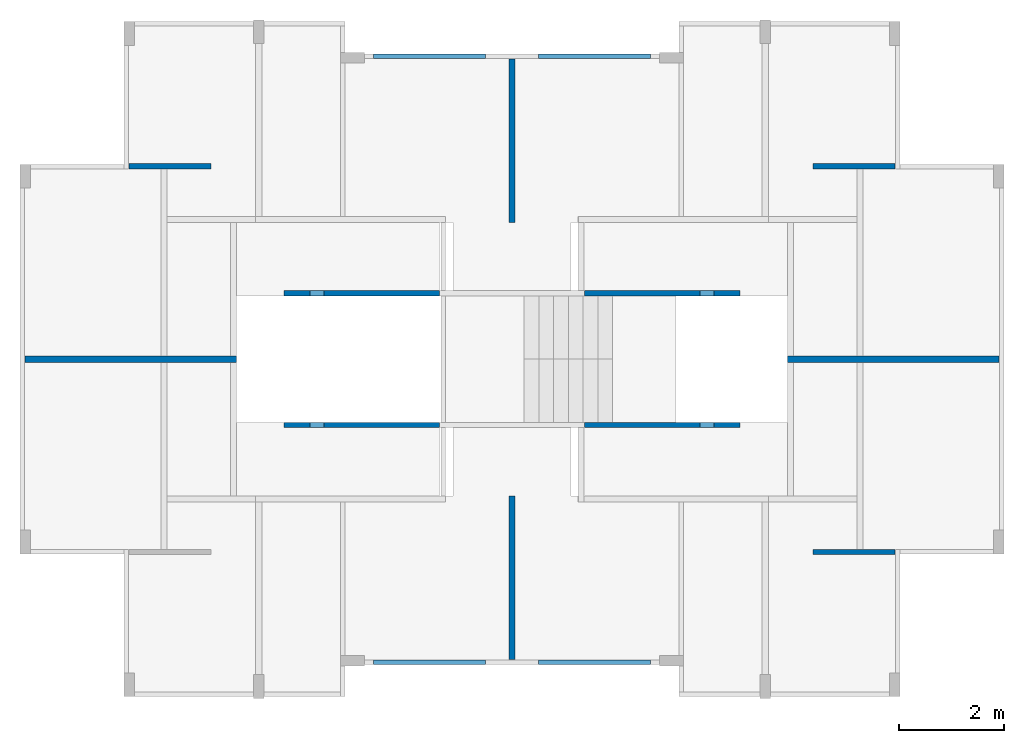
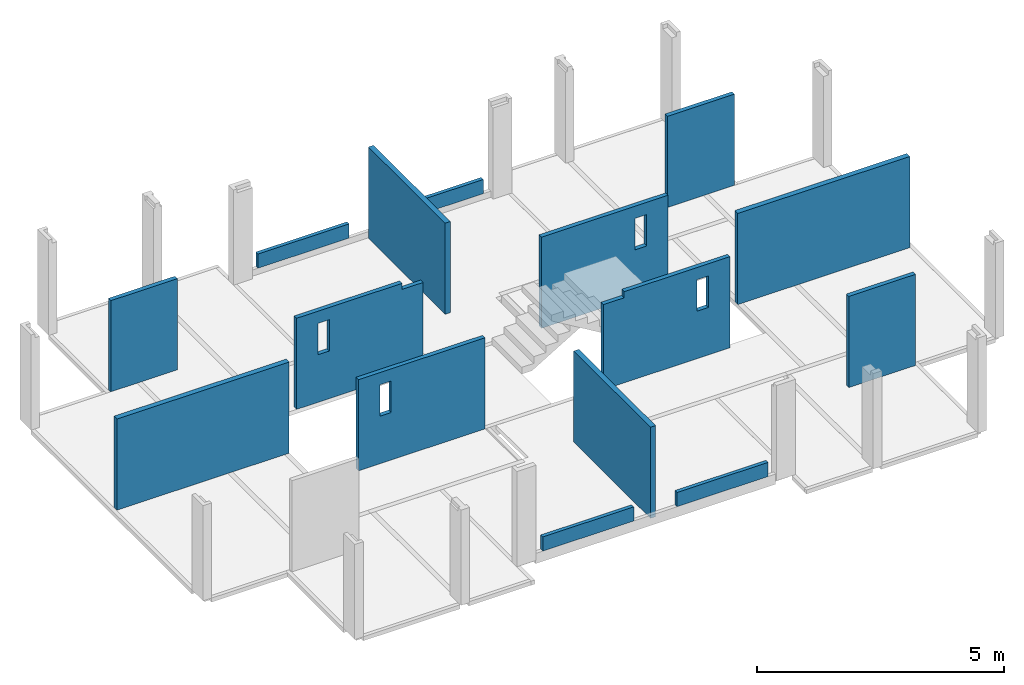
# One storey, part 4 of 6: 15 walls, 6 openings.
"""IFC4 building model written with IfcOpenShell, lengths in metres."""

import ifcopenshell
import ifcopenshell.guid

model = None  # the IFC model being written
_history = None  # IfcOwnerHistory: only IFC2X3 demands one
_inside = {}  # id of a spatial element -> (the spatial element, [elements in it])
_under = {}  # id of a project, library or spatial element -> (it, [spatial elements below it])
_declared = {}  # id of a project -> (the project, [libraries it declares])
_typed = {}  # id of a type object -> (the type object, [elements of that type])
_made_of = {}  # id of a material, layer set ... -> (it, [elements and type objects made of it])


def new_model(schema):
    """Start an empty IFC model of exactly this schema.

    Asked for "IFC4X3", IfcOpenShell would pick the latest addendum, in which some entities
    have other attributes; the version numbers below select the first issue.
    IFC2X3 requires an IfcOwnerHistory on every rooted entity: one is made here for all.
    """
    global model, _history
    if schema == "IFC4X3":
        model = ifcopenshell.file(schema_version=(4, 3, 0, 0))
    else:
        model = ifcopenshell.file(schema=schema)
    _inside.clear()
    _under.clear()
    _declared.clear()
    _typed.clear()
    _made_of.clear()
    _history = None
    if model.schema == "IFC2X3":
        org = make("IfcOrganization", Name="unknown")
        user = make(
            "IfcPersonAndOrganization",
            ThePerson=make("IfcPerson", FamilyName="unknown"),
            TheOrganization=org,
        )
        app = make(
            "IfcApplication",
            ApplicationDeveloper=org,
            Version="unknown",
            ApplicationFullName="unknown",
            ApplicationIdentifier="unknown",
        )
        _history = make(
            "IfcOwnerHistory",
            OwningUser=user,
            OwningApplication=app,
            ChangeAction="ADDED",
            CreationDate=0,
        )
    return model


def make(cls, **values):
    """One entity of the class cls with the attributes given. An attribute that is None is left unset."""
    return model.create_entity(
        cls, **{name: value for name, value in values.items() if value is not None}
    )


def entity(cls, *values):
    """Any entity or typed value of the class cls, its attributes in the order of the schema. None: left unset."""
    e = model.create_entity(cls)
    for i, value in enumerate(values):
        if value is not None:
            e[i] = value
    return e


def rooted(cls, **values):
    """An entity with a GlobalId (a new one), such as an element, a storey or a relation."""
    return make(cls, GlobalId=ifcopenshell.guid.new(), OwnerHistory=_history, **values)


def si_unit(unit_type, name, prefix=None):
    """IfcSIUnit, for example si_unit("LENGTHUNIT", "METRE", prefix="MILLI")."""
    return make("IfcSIUnit", UnitType=unit_type, Prefix=prefix, Name=name)


def converted_unit(unit_type, name, factor, base, dimensions=None, offset=None):
    """IfcConversionBasedUnit, such as the inch: factor (a typed value) times the base unit."""
    return make(
        "IfcConversionBasedUnit"
        if offset is None
        else "IfcConversionBasedUnitWithOffset",
        ConversionOffset=offset,
        Dimensions=None
        if dimensions is None
        else entity("IfcDimensionalExponents", *dimensions),
        UnitType=unit_type,
        Name=name,
        ConversionFactor=make(
            "IfcMeasureWithUnit", ValueComponent=factor, UnitComponent=base
        ),
    )


def derived_unit(unit_type, elements):
    """IfcDerivedUnit: a product of units, each with its exponent."""
    return make(
        "IfcDerivedUnit",
        Elements=[
            make("IfcDerivedUnitElement", Unit=unit, Exponent=power)
            for unit, power in elements
        ],
        UnitType=unit_type,
    )


def assignment(units):
    """IfcUnitAssignment: the units of a project."""
    return None if units is None else make("IfcUnitAssignment", Units=units)


def point(xyz):
    """IfcCartesianPoint."""
    return None if xyz is None else make("IfcCartesianPoint", Coordinates=xyz)


def direction(xyz):
    """IfcDirection."""
    return None if xyz is None else make("IfcDirection", DirectionRatios=xyz)


def frame(location, z_axis=None, x_axis=None):
    """IfcAxis2Placement3D, a coordinate frame: its origin and axes. An axis left out is left unset."""
    return make(
        "IfcAxis2Placement3D",
        Location=point(location),
        Axis=direction(z_axis),
        RefDirection=direction(x_axis),
    )


def origin():
    """The frame at (0, 0, 0) with its axes left unset."""
    return frame((0.0, 0.0, 0.0))


def place(relative_to, where):
    """IfcLocalPlacement: puts the frame where relative to a parent placement (None: the world)."""
    return make(
        "IfcLocalPlacement", PlacementRelTo=relative_to, RelativePlacement=where
    )


def context(
    kind, dimensions, precision=None, world=None, true_north=None, identifier=None
):
    """IfcGeometricRepresentationContext, for example the 3D "Model" context."""
    return make(
        "IfcGeometricRepresentationContext",
        ContextIdentifier=identifier,
        ContextType=kind,
        CoordinateSpaceDimension=dimensions,
        Precision=precision,
        WorldCoordinateSystem=world,
        TrueNorth=true_north,
    )


def subcontext(parent, identifier, kind, view, scale=None):
    """IfcGeometricRepresentationSubContext, for example "Body" below "Model"."""
    return make(
        "IfcGeometricRepresentationSubContext",
        ContextIdentifier=identifier,
        ContextType=kind,
        ParentContext=parent,
        TargetScale=scale,
        TargetView=view,
    )


def project(units=None, contexts=None):
    """IfcProject with its units and contexts."""
    return rooted(
        "IfcProject",
        Name="project",
        RepresentationContexts=contexts,
        UnitsInContext=assignment(units),
    )


def spatial(cls, under=None, at=None, **own):
    """A site, building, storey or space (cls), placed at a placement, below another one or the project."""
    s = rooted(cls, ObjectPlacement=at, **own)
    if under is not None:
        _under.setdefault(under.id(), (under, []))[1].append(s)
    return s


def point_list(points):
    """IfcCartesianPointList2D or 3D."""
    cls = (
        "IfcCartesianPointList2D" if len(points[0]) == 2 else "IfcCartesianPointList3D"
    )
    return make(cls, CoordList=points)


def indexed_curve(points, segments=None, self_intersect=None):
    """IfcIndexedPolyCurve: lines and arcs through numbered points (the first is 1)."""
    return make(
        "IfcIndexedPolyCurve",
        Points=point_list(points),
        Segments=segments,
        SelfIntersect=self_intersect,
    )


def outline(outer, holes=None, kind="AREA"):
    """IfcArbitraryClosedProfileDef: a profile drawn as a closed curve; with holes, ...WithVoids."""
    if holes is None:
        return make("IfcArbitraryClosedProfileDef", ProfileType=kind, OuterCurve=outer)
    return make(
        "IfcArbitraryProfileDefWithVoids",
        ProfileType=kind,
        OuterCurve=outer,
        InnerCurves=holes,
    )


def extrude(swept, where, along, depth):
    """IfcExtrudedAreaSolid: the profile swept, set in the frame where, extruded along a direction by depth."""
    return make(
        "IfcExtrudedAreaSolid",
        SweptArea=swept,
        Position=where,
        ExtrudedDirection=direction(along),
        Depth=depth,
    )


def polygons(points, faces, closed=None, point_numbers=None):
    """IfcPolygonalFaceSet: a face is its outer loop, then its inner loops; points numbered from 1."""
    made = []
    for loops in faces:
        if len(loops) == 1:
            made.append(make("IfcIndexedPolygonalFace", CoordIndex=loops[0]))
        else:
            made.append(
                make(
                    "IfcIndexedPolygonalFaceWithVoids",
                    CoordIndex=loops[0],
                    InnerCoordIndices=loops[1:],
                )
            )
    return make(
        "IfcPolygonalFaceSet",
        Coordinates=point_list(points),
        Closed=closed,
        Faces=made,
        PnIndex=point_numbers,
    )


def shape(context_of_items, identifier, shape_type, items):
    """IfcShapeRepresentation: the items that make up one representation, for example the "Body"."""
    return make(
        "IfcShapeRepresentation",
        ContextOfItems=context_of_items,
        RepresentationIdentifier=identifier,
        RepresentationType=shape_type,
        Items=items,
    )


def material(Name=None, Category=None):
    """IfcMaterial."""
    return make("IfcMaterial", Name=Name, Category=Category)


def made_of(thing, what):
    """Note that an element or type object is made of a material, layer set ...; save() writes the relation."""
    if what is not None:
        _made_of.setdefault(what.id(), (what, []))[1].append(thing)
    return thing


def type_object(cls, material=None, **own):
    """A type object (cls), such as IfcWallType, which elements share."""
    return made_of(rooted(cls, **own), material)


def element(
    cls,
    number,
    at=None,
    inside=None,
    cuts=None,
    type_object=None,
    material=None,
    context=None,
    identifier="Body",
    shape_type=None,
    held_by="IfcProductDefinitionShape",
    body=None,
    shapes=None,
    **own,
):
    """One element of the class cls, such as IfcWall. Its Tag is "e" and its number.

    at: its placement. inside: the storey or other place that contains it. cuts: it is an
    opening in that element (IfcRelVoidsElement). A single representation is given by context,
    identifier, shape_type and body (its items); several are given by shapes. held_by: the class
    of the entity that holds the representations. save() writes the other relations.
    """
    e = rooted(cls, Tag="e%d" % number, ObjectPlacement=at, **own)
    if body is not None:
        shapes = [shape(context, identifier, shape_type, body)]
    if shapes is not None:
        e.Representation = make(held_by, Representations=shapes)
    if inside is not None:
        _inside.setdefault(inside.id(), (inside, []))[1].append(e)
    if cuts is not None:
        rooted(
            "IfcRelVoidsElement", RelatingBuildingElement=cuts, RelatedOpeningElement=e
        )
    if type_object is not None:
        _typed.setdefault(type_object.id(), (type_object, []))[1].append(e)
    return made_of(e, material)


def aggregate(whole, parts):
    """IfcRelAggregates: a whole, such as a stair, and the parts it consists of."""
    return rooted("IfcRelAggregates", RelatingObject=whole, RelatedObjects=parts)


def save(model, path):
    """Write the relations noted so far, then the file.

    IfcRelAggregates (storeys below a building ...), IfcRelContainedInSpatialStructure (elements
    in a storey), IfcRelDefinesByType, IfcRelAssociatesMaterial and IfcRelDeclares: one each for
    every whole, place, type object, material and project.
    """
    for whole, parts in _under.values():
        aggregate(whole, parts)
    for where, things in _inside.values():
        rooted(
            "IfcRelContainedInSpatialStructure",
            RelatedElements=things,
            RelatingStructure=where,
        )
    for kind, things in _typed.values():
        rooted("IfcRelDefinesByType", RelatedObjects=things, RelatingType=kind)
    for what, things in _made_of.values():
        rooted("IfcRelAssociatesMaterial", RelatedObjects=things, RelatingMaterial=what)
    for by, libraries in _declared.values():
        rooted("IfcRelDeclares", RelatingContext=by, RelatedDefinitions=libraries)
    model.write(path)


model = new_model("IFC4")

# Units and contexts
model_context = context("Model", 3, precision=1e-05, world=origin(), true_north=direction((6.123031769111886e-17, 1.0)))
body_context = subcontext(model_context, "Body", "Model", "MODEL_VIEW")
ifc_project = project(units=[si_unit("LENGTHUNIT", "METRE"), si_unit("AREAUNIT", "SQUARE_METRE"), si_unit("VOLUMEUNIT", "CUBIC_METRE"), converted_unit("PLANEANGLEUNIT", "DEGREE", entity("IfcRatioMeasure", 0.017453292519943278), si_unit("PLANEANGLEUNIT", "RADIAN"), dimensions=[0, 0, 0, 0, 0, 0, 0]), si_unit("MASSUNIT", "GRAM", prefix="KILO"), derived_unit("MASSDENSITYUNIT", [(si_unit("MASSUNIT", "GRAM", prefix="KILO"), 1), (si_unit("LENGTHUNIT", "METRE"), -3)]), derived_unit("IONCONCENTRATIONUNIT", [(si_unit("MASSUNIT", "GRAM", prefix="KILO"), 1), (si_unit("LENGTHUNIT", "METRE"), -3)]), derived_unit("MOMENTOFINERTIAUNIT", [(si_unit("LENGTHUNIT", "METRE"), 4)]), si_unit("TIMEUNIT", "SECOND"), si_unit("FREQUENCYUNIT", "HERTZ"), si_unit("THERMODYNAMICTEMPERATUREUNIT", "DEGREE_CELSIUS"), derived_unit("THERMALTRANSMITTANCEUNIT", [(si_unit("MASSUNIT", "GRAM", prefix="KILO"), 1), (si_unit("THERMODYNAMICTEMPERATUREUNIT", "KELVIN"), -1), (si_unit("TIMEUNIT", "SECOND"), -3)]), derived_unit("THERMALCONDUCTANCEUNIT", [(si_unit("MASSUNIT", "GRAM", prefix="KILO"), 1), (si_unit("THERMODYNAMICTEMPERATUREUNIT", "KELVIN"), -1), (si_unit("TIMEUNIT", "SECOND"), -3), (si_unit("LENGTHUNIT", "METRE"), 1)]), derived_unit("VOLUMETRICFLOWRATEUNIT", [(si_unit("LENGTHUNIT", "METRE"), 3), (si_unit("TIMEUNIT", "SECOND"), -1)]), derived_unit("MASSFLOWRATEUNIT", [(si_unit("MASSUNIT", "GRAM", prefix="KILO"), 1), (si_unit("TIMEUNIT", "SECOND"), -1)]), derived_unit("ROTATIONALFREQUENCYUNIT", [(si_unit("TIMEUNIT", "SECOND"), -1)]), si_unit("ELECTRICCURRENTUNIT", "AMPERE"), si_unit("ELECTRICVOLTAGEUNIT", "VOLT"), si_unit("POWERUNIT", "WATT"), si_unit("FORCEUNIT", "NEWTON", prefix="KILO"), si_unit("ILLUMINANCEUNIT", "LUX"), si_unit("LUMINOUSFLUXUNIT", "LUMEN"), si_unit("LUMINOUSINTENSITYUNIT", "CANDELA"), derived_unit("USERDEFINED", [(si_unit("MASSUNIT", "GRAM", prefix="KILO"), -1), (si_unit("LENGTHUNIT", "METRE"), -2), (si_unit("TIMEUNIT", "SECOND"), 3), (si_unit("LUMINOUSFLUXUNIT", "LUMEN"), 1)]), derived_unit("USERDEFINED", [(si_unit("MASSUNIT", "GRAM", prefix="KILO"), 1), (si_unit("TIMEUNIT", "SECOND"), -3), (si_unit("LENGTHUNIT", "METRE"), 3), (si_unit("ELECTRICCURRENTUNIT", "AMPERE"), -2)]), derived_unit("SOUNDPOWERUNIT", [(si_unit("MASSUNIT", "GRAM", prefix="KILO"), 1), (si_unit("TIMEUNIT", "SECOND"), -3), (si_unit("LENGTHUNIT", "METRE"), 2)]), derived_unit("SOUNDPRESSUREUNIT", [(si_unit("MASSUNIT", "GRAM", prefix="KILO"), 1), (si_unit("LENGTHUNIT", "METRE"), -1), (si_unit("TIMEUNIT", "SECOND"), -2)]), derived_unit("LINEARVELOCITYUNIT", [(si_unit("LENGTHUNIT", "METRE"), 1), (si_unit("TIMEUNIT", "SECOND"), -1)]), si_unit("PRESSUREUNIT", "PASCAL"), derived_unit("USERDEFINED", [(si_unit("MASSUNIT", "GRAM", prefix="KILO"), 1), (si_unit("LENGTHUNIT", "METRE"), -2), (si_unit("TIMEUNIT", "SECOND"), -2)]), derived_unit("LINEARFORCEUNIT", [(si_unit("MASSUNIT", "GRAM", prefix="KILO"), 1), (si_unit("TIMEUNIT", "SECOND"), -2)]), derived_unit("PLANARFORCEUNIT", [(si_unit("MASSUNIT", "GRAM", prefix="KILO"), 1), (si_unit("LENGTHUNIT", "METRE"), -1), (si_unit("TIMEUNIT", "SECOND"), -2)]), derived_unit("SPECIFICHEATCAPACITYUNIT", [(si_unit("THERMODYNAMICTEMPERATUREUNIT", "KELVIN"), -1), (si_unit("LENGTHUNIT", "METRE"), 2), (si_unit("TIMEUNIT", "SECOND"), -2)]), derived_unit("HEATINGVALUEUNIT", [(si_unit("LENGTHUNIT", "METRE"), 2), (si_unit("TIMEUNIT", "SECOND"), -2)]), derived_unit("VAPORPERMEABILITYUNIT", [(si_unit("LENGTHUNIT", "METRE"), -1), (si_unit("TIMEUNIT", "SECOND"), 1)]), derived_unit("DYNAMICVISCOSITYUNIT", [(si_unit("MASSUNIT", "GRAM", prefix="KILO"), 1), (si_unit("TIMEUNIT", "SECOND"), -1), (si_unit("LENGTHUNIT", "METRE"), -1)]), derived_unit("THERMALEXPANSIONCOEFFICIENTUNIT", [(si_unit("THERMODYNAMICTEMPERATUREUNIT", "KELVIN"), -1)]), derived_unit("MODULUSOFELASTICITYUNIT", [(si_unit("MASSUNIT", "GRAM", prefix="KILO"), 1), (si_unit("LENGTHUNIT", "METRE"), -1), (si_unit("TIMEUNIT", "SECOND"), -2)]), derived_unit("ISOTHERMALMOISTURECAPACITYUNIT", [(si_unit("LENGTHUNIT", "METRE"), 3), (si_unit("MASSUNIT", "GRAM", prefix="KILO"), -1)]), derived_unit("MOISTUREDIFFUSIVITYUNIT", [(si_unit("TIMEUNIT", "SECOND"), -1), (si_unit("LENGTHUNIT", "METRE"), 2)])], contexts=[model_context])

# Site, building, storey
site_placement = place(None, origin())
site = spatial("IfcSite", under=ifc_project, at=site_placement, Name="Default", CompositionType="ELEMENT")
building_placement = place(site_placement, origin())
building = spatial("IfcBuilding", under=site, at=building_placement, Name="Las nubes", CompositionType="ELEMENT")
storey_placement = place(building_placement, frame((0.0, 0.0, 9.400000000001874)))
storey = spatial("IfcBuildingStorey", under=building, at=storey_placement, Name="PISO 5", CompositionType="ELEMENT", Elevation=9.400000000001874)

# Walls
ifc_material_1 = material(Name="Concrete - Cast-in-Place Concrete - 35 MPa", Category="Materials")
wall_type_1 = type_object("IfcWallType", Name="Basic Wall:MURO 12cm", PredefinedType="STANDARD")
wall_1_placement = place(storey_placement, frame((9.322500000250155, -12.129999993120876, 0.0), z_axis=(0.0, 0.0, 1.0), x_axis=(0.0, 1.0, 0.0)))
element("IfcWall", 1, at=wall_1_placement, inside=storey, type_object=wall_type_1, material=ifc_material_1, Name="Basic Wall:MURO 12cm", ObjectType="Basic Wall:MURO 12cm", PredefinedType="NOTDEFINED", context=body_context, shape_type="SweptSolid", body=[
    extrude(outline(indexed_curve([(3.105000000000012, 0.06000000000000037), (-1.0337633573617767e-16, 0.060000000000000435), (1.0337633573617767e-16, -0.060000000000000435), (3.105000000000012, -0.060000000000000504), (3.105000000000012, 0.06000000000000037)], self_intersect=False)), origin(), (0.0, 0.0, 1.0), 2.2499999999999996),
])
wall_2_placement = place(storey_placement, frame((9.322500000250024, -0.7200000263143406, 0.0), z_axis=(0.0, 0.0, 1.0), x_axis=(0.0, -1.0, 0.0)))
element("IfcWall", 2, at=wall_2_placement, inside=storey, type_object=wall_type_1, material=ifc_material_1, Name="Basic Wall:MURO 12cm", ObjectType="Basic Wall:MURO 12cm", PredefinedType="NOTDEFINED", context=body_context, shape_type="SweptSolid", body=[
    extrude(outline(indexed_curve([(3.105000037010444, 0.06000000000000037), (3.198205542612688e-17, 0.060000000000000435), (-3.198205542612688e-17, -0.060000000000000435), (3.105000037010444, -0.060000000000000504), (3.105000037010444, 0.06000000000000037)], self_intersect=False)), origin(), (0.0, 0.0, 1.0), 2.2499999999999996),
])
wall_3_placement = place(storey_placement, frame((18.57750000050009, -6.425000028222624, 0.0), z_axis=(0.0, 0.0, 1.0), x_axis=(-1.0, 0.0, 0.0)))
element("IfcWall", 3, at=wall_3_placement, inside=storey, type_object=wall_type_1, material=ifc_material_1, Name="Basic Wall:MURO 12cm", ObjectType="Basic Wall:MURO 12cm", PredefinedType="NOTDEFINED", context=body_context, shape_type="SweptSolid", body=[
    extrude(outline(indexed_curve([(4.01999999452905, 0.06000000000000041), (-1.934650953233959e-16, 0.060000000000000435), (1.934650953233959e-16, -0.060000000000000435), (4.01999999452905, -0.06000000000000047), (4.01999999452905, 0.06000000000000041)], self_intersect=False)), origin(), (0.0, 0.0, 1.0), 2.2499999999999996),
])
wall_4_placement = place(storey_placement, frame((0.06750000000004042, -6.425000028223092, 0.0)))
element("IfcWall", 4, at=wall_4_placement, inside=storey, type_object=wall_type_1, material=ifc_material_1, Name="Basic Wall:MURO 12cm", ObjectType="Basic Wall:MURO 12cm", PredefinedType="NOTDEFINED", context=body_context, shape_type="SweptSolid", body=[
    extrude(outline(indexed_curve([(4.0199999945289, 0.060000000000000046), (-1.9797595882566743e-18, 0.060000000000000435), (1.9797595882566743e-18, -0.060000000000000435), (4.0199999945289, -0.06000000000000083), (4.0199999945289, 0.060000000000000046)], self_intersect=False)), origin(), (0.0, 0.0, 1.0), 2.2499999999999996),
])
wall_type_2 = type_object("IfcWallType", Name="Basic Wall:MURO 10cm", PredefinedType="STANDARD")
wall_5_placement = place(storey_placement, frame((15.04250000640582, -10.090000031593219, 0.0)))
element("IfcWall", 5, at=wall_5_placement, inside=storey, type_object=wall_type_2, material=ifc_material_1, Name="Basic Wall:MURO 10cm", ObjectType="Basic Wall:MURO 10cm", PredefinedType="NOTDEFINED", context=body_context, shape_type="SweptSolid", body=[
    extrude(outline(indexed_curve([(1.5599999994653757, 0.049999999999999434), (-1.3794485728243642e-16, 0.04999999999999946), (1.3794485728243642e-16, -0.04999999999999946), (1.5599999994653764, -0.04999999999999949), (1.5599999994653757, 0.049999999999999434)], self_intersect=False)), origin(), (0.0, 0.0, 1.0), 2.2499999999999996),
])
wall_6_placement = place(storey_placement, frame((15.042500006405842, -2.7600000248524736, 0.0)))
element("IfcWall", 6, at=wall_6_placement, inside=storey, type_object=wall_type_2, material=ifc_material_1, Name="Basic Wall:MURO 10cm", ObjectType="Basic Wall:MURO 10cm", PredefinedType="NOTDEFINED", context=body_context, shape_type="SweptSolid", body=[
    extrude(outline(indexed_curve([(1.5600000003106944, 0.05), (-1.5618275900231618e-16, 0.05), (1.5618275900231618e-16, -0.05), (1.5600000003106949, -0.05), (1.5600000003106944, 0.05)], self_intersect=False)), origin(), (0.0, 0.0, 1.0), 2.2499999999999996),
])

# Wall, opening
wall_7_placement = place(storey_placement, frame((13.657500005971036, -5.17500002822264, 0.0), z_axis=(0.0, 0.0, 1.0), x_axis=(-1.0, 0.0, 0.0)))
wall_7 = element("IfcWall", 7, at=wall_7_placement, inside=storey, type_object=wall_type_2, material=ifc_material_1, Name="Basic Wall:MURO 10cm", ObjectType="Basic Wall:MURO 10cm", PredefinedType="NOTDEFINED", context=body_context, shape_type="Tessellation", body=[
    polygons([(4.2325258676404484e-16, -0.04999999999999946, -1.0828671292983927e-15), (2.455000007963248, -0.04999999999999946, -1.0828671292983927e-15), (2.955000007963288, -0.04999999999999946, -1.0828671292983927e-15), (2.955000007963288, -0.04999999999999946, 2.1000000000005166), (2.955000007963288, -0.04999999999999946, 2.2499999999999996), (2.455000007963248, -0.04999999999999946, 2.2499999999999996), (4.2325258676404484e-16, -0.04999999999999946, 2.2499999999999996), (0.7651124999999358, -0.04999999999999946, 1.1737125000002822), (0.4999999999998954, -0.04999999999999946, 1.1737125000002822), (0.4999999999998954, -0.04999999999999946, 1.9500000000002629), (0.7651124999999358, -0.04999999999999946, 1.9500000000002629), (9.344534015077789e-17, 0.050000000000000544, -1.0828671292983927e-15), (9.344534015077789e-17, 0.050000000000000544, 2.2499999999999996), (2.4550000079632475, 0.050000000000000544, 2.2499999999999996), (2.9550000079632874, 0.050000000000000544, 2.2499999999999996), (2.9550000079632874, 0.050000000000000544, 2.1000000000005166), (2.9550000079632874, 0.050000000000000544, -1.0828671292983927e-15), (2.4550000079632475, 0.050000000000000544, -1.0828671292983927e-15), (0.7651124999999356, 0.050000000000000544, 1.1737125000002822), (0.7651124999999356, 0.050000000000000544, 1.9500000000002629), (0.4999999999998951, 0.050000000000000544, 1.9500000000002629), (0.4999999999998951, 0.050000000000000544, 1.1737125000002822)], [[[1, 2, 3, 4, 5, 6, 7], [8, 9, 10, 11]], [[12, 13, 14, 15, 16, 17, 18], [19, 20, 21, 22]], [[3, 2, 1, 12, 18, 17]], [[5, 4, 3, 17, 16, 15]], [[7, 6, 5, 15, 14, 13]], [[1, 7, 13, 12]], [[9, 8, 19, 22]], [[10, 9, 22, 21]], [[11, 10, 21, 20]], [[8, 11, 20, 19]]], closed=True),
])
opening_1_placement = place(wall_7_placement, origin())
element("IfcOpeningElement", 8, at=opening_1_placement, cuts=wall_7, Name="Basic Wall:MURO 10cm", PredefinedType="OPENING", context=body_context, shape_type="SweptSolid", body=[
    extrude(outline(indexed_curve([(-0.38814374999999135, -0.13255625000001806), (0.3881437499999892, -0.13255625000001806), (0.3881437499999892, 0.13255625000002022), (-0.38814374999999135, 0.13255625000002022), (-0.38814374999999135, -0.13255625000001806)], self_intersect=False)), frame((0.6325562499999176, 0.04999999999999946, 1.5618562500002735), z_axis=(0.0, -1.0, 0.0), x_axis=(0.0, 0.0, 1.0)), (0.0, 0.0, 1.0), 0.1),
])

# Wall
wall_8_placement = place(storey_placement, frame((3.6024999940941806, -2.7600000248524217, 0.0), z_axis=(0.0, 0.0, 1.0), x_axis=(-1.0, 0.0, 0.0)))
element("IfcWall", 9, at=wall_8_placement, inside=storey, type_object=wall_type_2, material=ifc_material_1, Name="Basic Wall:MURO 10cm", ObjectType="Basic Wall:MURO 10cm", PredefinedType="NOTDEFINED", context=body_context, shape_type="SweptSolid", body=[
    extrude(outline(indexed_curve([(1.5600000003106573, 0.05), (-1.5618275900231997e-16, 0.05), (1.5618275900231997e-16, -0.05), (1.5600000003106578, -0.05), (1.5600000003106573, 0.05)], self_intersect=False)), origin(), (0.0, 0.0, 1.0), 2.2499999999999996),
])

# Wall, opening
wall_9_placement = place(storey_placement, frame((7.942500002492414, -7.675000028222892, 0.0), z_axis=(0.0, 0.0, 1.0), x_axis=(-1.0, 0.0, 0.0)))
wall_9 = element("IfcWall", 10, at=wall_9_placement, inside=storey, type_object=wall_type_2, material=ifc_material_1, Name="Basic Wall:MURO 10cm", ObjectType="Basic Wall:MURO 10cm", PredefinedType="NOTDEFINED", context=body_context, shape_type="Tessellation", body=[
    polygons([(3.4812988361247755e-16, -0.050000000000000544, -1.0828671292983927e-15), (0.5000000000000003, -0.050000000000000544, -1.0828671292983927e-15), (2.9550000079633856, -0.050000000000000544, -1.0828671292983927e-15), (2.9550000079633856, -0.050000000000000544, 2.2499999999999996), (0.5000000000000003, -0.050000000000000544, 2.2499999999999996), (3.4812988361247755e-16, -0.050000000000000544, 2.2499999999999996), (3.4812988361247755e-16, -0.050000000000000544, 2.1000000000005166), (2.4550000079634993, -0.050000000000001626, 1.173712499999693), (2.189887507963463, -0.050000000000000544, 1.173712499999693), (2.189887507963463, -0.050000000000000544, 1.949999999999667), (2.4550000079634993, -0.050000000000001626, 1.949999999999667), (4.947108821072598e-16, 0.050000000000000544, -1.0828671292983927e-15), (4.94710882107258e-16, 0.04999999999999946, 2.1000000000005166), (4.947108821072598e-16, 0.050000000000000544, 2.2499999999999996), (0.5000000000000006, 0.04999999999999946, 2.2499999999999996), (2.9550000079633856, 0.04999999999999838, 2.2499999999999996), (2.9550000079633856, 0.04999999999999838, -1.0828671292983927e-15), (0.5000000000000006, 0.04999999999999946, -1.0828671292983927e-15), (2.4550000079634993, 0.04999999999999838, 1.173712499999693), (2.4550000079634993, 0.04999999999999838, 1.949999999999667), (2.189887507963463, 0.04999999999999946, 1.949999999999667), (2.189887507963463, 0.04999999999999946, 1.173712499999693)], [[[1, 2, 3, 4, 5, 6, 7], [8, 9, 10, 11]], [[12, 13, 14, 15, 16, 17, 18], [19, 20, 21, 22]], [[3, 2, 1, 12, 18, 17]], [[4, 3, 17, 16]], [[6, 5, 4, 16, 15, 14]], [[1, 7, 6, 14, 13, 12]], [[9, 8, 19, 22]], [[10, 9, 22, 21]], [[11, 10, 21, 20]], [[8, 11, 20, 19]]], closed=True),
])
opening_2_placement = place(wall_9_placement, origin())
element("IfcOpeningElement", 11, at=opening_2_placement, cuts=wall_9, Name="Basic Wall:MURO 10cm", PredefinedType="OPENING", context=body_context, shape_type="SweptSolid", body=[
    extrude(outline(indexed_curve([(-0.388143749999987, -0.13255625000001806), (0.388143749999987, -0.13255625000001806), (0.388143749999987, 0.13255625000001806), (-0.388143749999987, 0.13255625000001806), (-0.388143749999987, -0.13255625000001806)], self_intersect=False)), frame((2.322443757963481, 0.050000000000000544, 1.5618562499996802), z_axis=(0.0, -1.0, 0.0), x_axis=(0.0, 0.0, 1.0)), (0.0, 0.0, 1.0), 0.1),
])

# Wall, openings
wall_10_placement = place(storey_placement, frame((7.942500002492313, -5.175000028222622, 0.0), z_axis=(0.0, 0.0, 1.0), x_axis=(-1.0, 0.0, 0.0)))
wall_10 = element("IfcWall", 12, at=wall_10_placement, inside=storey, type_object=wall_type_2, material=ifc_material_1, Name="Basic Wall:MURO 10cm", ObjectType="Basic Wall:MURO 10cm", PredefinedType="NOTDEFINED", context=body_context, shape_type="Tessellation", body=[
    polygons([(2.9550000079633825, -0.04999999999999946, 2.2499999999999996), (0.49999999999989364, -0.04999999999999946, 2.2499999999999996), (0.4900000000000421, -0.04999999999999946, 2.2499999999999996), (0.4900000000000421, -0.04999999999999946, 2.099999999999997), (8.00730484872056e-16, -0.04999999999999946, 2.099999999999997), (8.00730484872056e-16, -0.04999999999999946, 1.0828671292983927e-15), (0.49999999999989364, -0.04999999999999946, 0.0), (2.9550000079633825, -0.04999999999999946, 1.0828671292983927e-15), (2.4550000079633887, -0.04999999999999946, 1.173712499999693), (2.189887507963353, -0.04999999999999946, 1.173712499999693), (2.189887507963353, -0.04999999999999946, 1.9499999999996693), (2.4550000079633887, -0.04999999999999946, 1.9499999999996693), (2.9550000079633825, 0.050000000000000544, 2.2499999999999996), (2.9550000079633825, 0.050000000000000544, 1.0828671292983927e-15), (0.4999999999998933, 0.050000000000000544, 0.0), (4.78288660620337e-16, 0.050000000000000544, 1.0828671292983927e-15), (4.78288660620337e-16, 0.050000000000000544, 2.099999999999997), (0.4900000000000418, 0.050000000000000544, 2.099999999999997), (0.4900000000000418, 0.050000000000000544, 2.2499999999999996), (0.4999999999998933, 0.050000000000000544, 2.2499999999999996), (2.4550000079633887, 0.050000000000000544, 1.173712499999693), (2.4550000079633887, 0.050000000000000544, 1.9499999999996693), (2.189887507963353, 0.050000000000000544, 1.9499999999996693), (2.189887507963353, 0.050000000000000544, 1.173712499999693)], [[[1, 2, 3, 4, 5, 6, 7, 8], [9, 10, 11, 12]], [[13, 14, 15, 16, 17, 18, 19, 20], [21, 22, 23, 24]], [[3, 2, 1, 13, 20, 19]], [[5, 4, 18, 17]], [[4, 3, 19, 18]], [[1, 8, 14, 13]], [[6, 5, 17, 16]], [[8, 7, 6, 16, 15, 14]], [[10, 9, 21, 24]], [[11, 10, 24, 23]], [[12, 11, 23, 22]], [[9, 12, 22, 21]]], closed=True),
])
opening_3_placement = place(wall_10_placement, origin())
element("IfcOpeningElement", 13, at=opening_3_placement, cuts=wall_10, Name="Basic Wall:MURO 10cm", PredefinedType="OPENING", context=body_context, shape_type="SweptSolid", body=[
    extrude(outline(indexed_curve([(-0.388143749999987, -0.13255625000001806), (0.3881437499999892, -0.13255625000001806), (0.3881437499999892, 0.13255625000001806), (-0.388143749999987, 0.13255625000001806), (-0.388143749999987, -0.13255625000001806)], self_intersect=False)), frame((2.3224437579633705, 0.050000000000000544, 1.5618562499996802), z_axis=(0.0, -1.0, 0.0), x_axis=(0.0, 0.0, 1.0)), (0.0, 0.0, 1.0), 0.1),
])
opening_4_placement = place(wall_10_placement, origin())
element("IfcOpeningElement", 14, at=opening_4_placement, cuts=wall_10, Name="Basic Wall:MURO 10cm", PredefinedType="OPENING", context=body_context, shape_type="SweptSolid", body=[
    extrude(outline(indexed_curve([(-0.2450000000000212, -0.07500000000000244), (0.2450000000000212, -0.07500000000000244), (0.2450000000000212, 0.07500000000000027), (-0.2450000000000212, 0.07500000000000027), (-0.2450000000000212, -0.07500000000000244)], self_intersect=False)), frame((0.2450000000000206, 0.04999999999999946, 2.174999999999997), z_axis=(0.0, -1.0, 0.0), x_axis=(-1.0, 0.0, 0.0)), (0.0, 0.0, 1.0), 0.1),
])

wall_11_placement = place(storey_placement, frame((10.702499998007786, -7.675000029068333, 0.0)))
wall_11 = element("IfcWall", 15, at=wall_11_placement, inside=storey, type_object=wall_type_2, material=ifc_material_1, Name="Basic Wall:MURO 10cm", ObjectType="Basic Wall:MURO 10cm", PredefinedType="NOTDEFINED", context=body_context, shape_type="Tessellation", body=[
    polygons([(2.9550000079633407, -0.050000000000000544, 2.250000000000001), (0.4900000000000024, -0.050000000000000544, 2.250000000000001), (0.4900000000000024, -0.050000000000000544, 2.0999999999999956), (1.159822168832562e-15, -0.050000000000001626, 2.0999999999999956), (1.159822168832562e-15, -0.050000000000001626, 0.0), (2.9550000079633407, -0.050000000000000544, 0.0), (2.189887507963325, -0.04999999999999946, 1.173712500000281), (2.189887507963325, -0.04999999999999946, 1.9500000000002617), (2.455000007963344, -0.04999999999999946, 1.9500000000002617), (2.455000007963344, -0.04999999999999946, 1.173712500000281), (2.9550000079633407, 0.04999999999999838, 2.250000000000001), (2.9550000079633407, 0.04999999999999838, 0.0), (9.765959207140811e-16, 0.04999999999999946, 0.0), (9.765959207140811e-16, 0.04999999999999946, 2.0999999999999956), (0.49000000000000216, 0.050000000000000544, 2.0999999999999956), (0.49000000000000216, 0.050000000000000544, 2.250000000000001), (2.189887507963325, 0.04999999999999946, 1.173712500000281), (2.455000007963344, 0.04999999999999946, 1.173712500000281), (2.455000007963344, 0.04999999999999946, 1.9500000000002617), (2.189887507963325, 0.04999999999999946, 1.9500000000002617)], [[[1, 2, 3, 4, 5, 6], [7, 8, 9, 10]], [[11, 12, 13, 14, 15, 16], [17, 18, 19, 20]], [[2, 1, 11, 16]], [[4, 3, 15, 14]], [[3, 2, 16, 15]], [[1, 6, 12, 11]], [[5, 4, 14, 13]], [[6, 5, 13, 12]], [[8, 7, 17, 20]], [[9, 8, 20, 19]], [[10, 9, 19, 18]], [[7, 10, 18, 17]]], closed=True),
])
opening_5_placement = place(wall_11_placement, origin())
element("IfcOpeningElement", 16, at=opening_5_placement, cuts=wall_11, Name="Basic Wall:MURO 10cm", PredefinedType="OPENING", context=body_context, shape_type="SweptSolid", body=[
    extrude(outline(indexed_curve([(-0.1325562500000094, -0.38814374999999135), (0.13255625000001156, -0.38814374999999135), (0.13255625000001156, 0.3881437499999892), (-0.1325562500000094, 0.3881437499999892), (-0.1325562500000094, -0.38814374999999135)], self_intersect=False)), frame((2.3224437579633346, 0.050000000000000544, 1.5618562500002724), z_axis=(0.0, -1.0, 0.0), x_axis=(1.0, 0.0, 0.0)), (0.0, 0.0, 1.0), 0.1),
])
opening_6_placement = place(wall_11_placement, origin())
element("IfcOpeningElement", 17, at=opening_6_placement, cuts=wall_11, Name="Basic Wall:MURO 10cm", PredefinedType="OPENING", context=body_context, shape_type="SweptSolid", body=[
    extrude(outline(indexed_curve([(-0.2450000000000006, -0.07500000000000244), (0.2450000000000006, -0.07500000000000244), (0.2450000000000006, 0.07500000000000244), (-0.2450000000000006, 0.07500000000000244), (-0.2450000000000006, -0.07500000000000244)], self_intersect=False)), frame((0.2450000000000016, 0.050000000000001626, 2.1749999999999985), z_axis=(0.0, -1.0, 0.0), x_axis=(-1.0, 0.0, 0.0)), (0.0, 0.0, 1.0), 0.1),
])

# Walls
ifc_material_2 = material(Name="Concrete - Cast-in-Place Concrete - 28 MPa SLAB", Category="Materials")
wall_type_3 = type_object("IfcWallType", Name="Basic Wall:MURO .085cm", PredefinedType="STANDARD")
for number, where, name in (
    (18, (6.692499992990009, -12.182500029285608, 0.14999999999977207), "Basic Wall:MURO .085cm"),
    (19, (9.827500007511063, -12.182500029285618, 0.15000000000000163), "Basic Wall:MURO .085cm"),
):
    element("IfcWall", number, at=place(storey_placement, frame(where)), inside=storey, type_object=wall_type_3, material=ifc_material_2, Name=name, ObjectType="Basic Wall:MURO .085cm", PredefinedType="NOTDEFINED", context=body_context, shape_type="SweptSolid", body=[
        extrude(outline(indexed_curve([(2.1249999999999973, 0.04249999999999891), (-1.7146162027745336e-16, 0.042499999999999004), (1.7146162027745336e-16, -0.042499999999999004), (2.1249999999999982, -0.042499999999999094), (2.1249999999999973, 0.04249999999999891)], self_intersect=False)), origin(), (0.0, 0.0, 1.0), 0.35000000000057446),
    ])
wall_12_placement = place(storey_placement, frame((6.692499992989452, -0.6675000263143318, 0.15000000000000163)))
element("IfcWall", 20, at=wall_12_placement, inside=storey, type_object=wall_type_3, material=ifc_material_2, Name="Basic Wall:MURO .085cm", ObjectType="Basic Wall:MURO .085cm", PredefinedType="NOTDEFINED", context=body_context, shape_type="SweptSolid", body=[
    extrude(outline(indexed_curve([(2.1250000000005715, 0.04249999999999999), (-1.7146162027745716e-16, 0.04249999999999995), (1.7146162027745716e-16, -0.04249999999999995), (2.125000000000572, -0.042499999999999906), (2.1250000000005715, 0.04249999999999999)], self_intersect=False)), origin(), (0.0, 0.0, 1.0), 0.35000000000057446),
])
wall_13_placement = place(storey_placement, frame((9.82750000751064, -0.6675000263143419, 0.15000000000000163)))
element("IfcWall", 21, at=wall_13_placement, inside=storey, type_object=wall_type_3, material=ifc_material_2, Name="Basic Wall:MURO .085cm", ObjectType="Basic Wall:MURO .085cm", PredefinedType="NOTDEFINED", context=body_context, shape_type="SweptSolid", body=[
    extrude(outline(indexed_curve([(2.1249999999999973, 0.04249999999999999), (-1.7146162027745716e-16, 0.04249999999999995), (1.7146162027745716e-16, -0.04249999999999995), (2.1249999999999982, -0.042499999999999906), (2.1249999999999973, 0.04249999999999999)], self_intersect=False)), origin(), (0.0, 0.0, 1.0), 0.35000000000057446),
])

save(model, "model.ifc")
